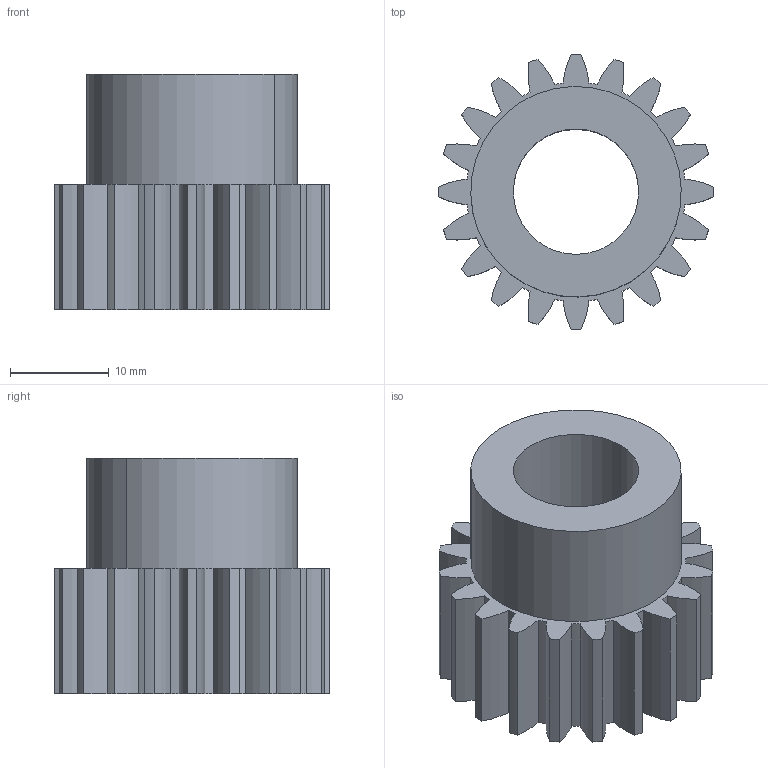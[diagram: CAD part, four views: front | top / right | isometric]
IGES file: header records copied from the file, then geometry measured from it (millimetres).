
Global section: file name: C:\Documents and Settings\Administrator\Desktop\Transfer Temp\gss-2020.igs; native system: AutoDesk Inventor R2.0 ; preprocessor: AutoDesk Inventor Iges Exporter R2.0; author: No Author specified; organization: No Organization specified; date: 20011226.200050; units: inch
Bounding box: 27.94 x 27.94 x 23.88 mm (x, y, z)
Surface area: 4473.4 mm2 (no closed solid volume)
Topology: 0 solids, 0 shells, 87 faces, 504 edges, 504 vertices
Faces by surface type: revolution 82, bspline 5
